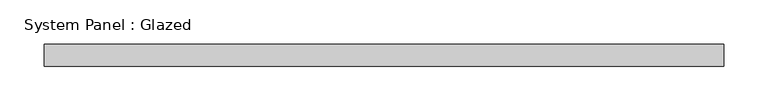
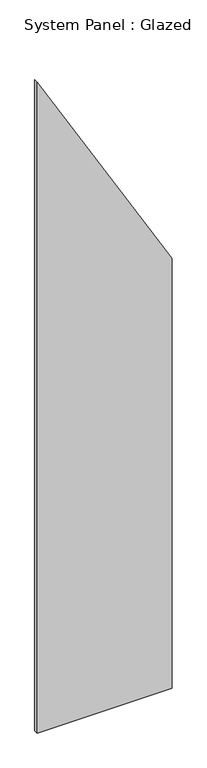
"""IFC4 building model written with IfcOpenShell, lengths in millimetres: plate geometry, System Panel : Glazed."""

from ifc_helpers import new_model, si_unit, frame, origin, place, context, project, spatial, polyline, outline, extrude, source, transform, mapped, element, save


def system_panel_glazed_10866b62(model_context):
    return source(origin(), model_context, "Body", "SweptSolid", [
        extrude(outline(polyline([(0.0, -385.0180834), (0.0, 385.0180834), (2599.3115862, 385.0180834), (3933.0533526, -385.0180834), (0.0, -385.0180834)])), frame((0.0, -72.5, 0.0), z_axis=(0.0, 1.0, 0.0), x_axis=(0.0, 0.0, 1.0)), (0.0, 0.0, 1.0), 25.0),
    ])


if __name__ == "__main__":
    model = new_model("IFC4")
    model_context = context("Model", 3, world=origin())
    ifc_project = project(units=[si_unit("LENGTHUNIT", "METRE", prefix="MILLI")], contexts=[model_context])
    site = spatial("IfcSite", under=ifc_project)
    building = spatial("IfcBuilding", under=site)
    placement = place(None, origin())
    system_panel_glazed_shape = system_panel_glazed_10866b62(model_context)
    element("IfcPlate", 1, ObjectType="System Panel : Glazed", at=placement, inside=building, context=model_context, shape_type="MappedRepresentation", body=[
        mapped(system_panel_glazed_shape, transform((0.0, 0.0, 0.0), x_axis=(1.0, 0.0, 0.0), y_axis=(0.0, 1.0, 0.0), z_axis=(0.0, 0.0, 1.0))),
    ])
    save(model, "model.ifc")
